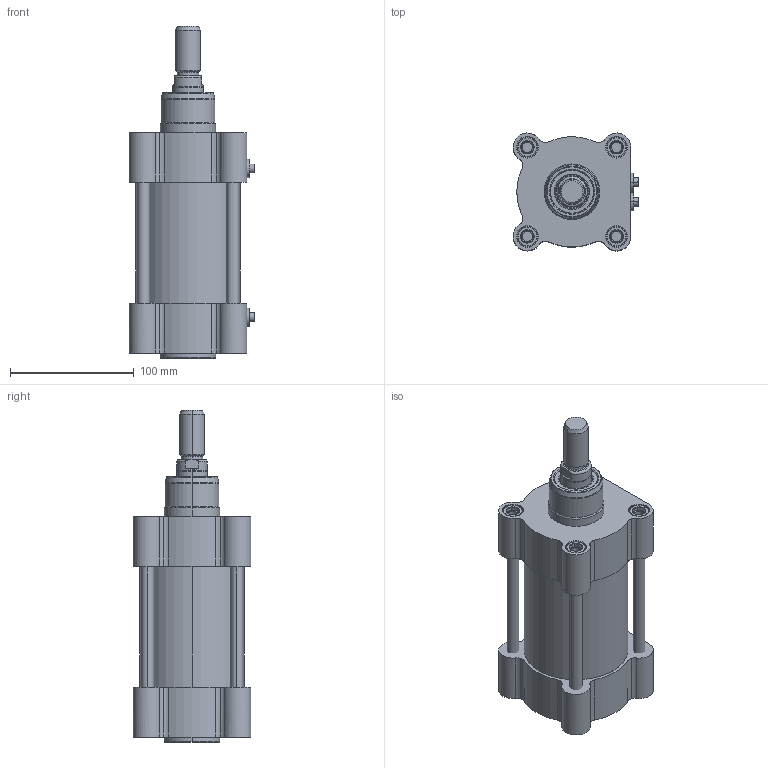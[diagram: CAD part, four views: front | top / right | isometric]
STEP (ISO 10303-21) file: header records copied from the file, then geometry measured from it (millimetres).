
FILE_DESCRIPTION (( 'STEP AP203' ), '1' );
FILE_NAME ('CTMI80-50.STEP', '2020-03-26T19:36:08', ( '' ), ( '' ), 'SwSTEP 2.0', 'SolidWorks 2019', '' );
FILE_SCHEMA (( 'CONFIG_CONTROL_DESIGN' ));
Length unit declared in the file: millimetre
Products named in the file (1): CTMI80-50
Bounding box: 101.5 x 95 x 268 mm (x, y, z)
Surface area: 197102.5 mm2 (no closed solid volume)
Topology: 0 solids, 26 shells, 731 faces, 1682 edges, 1038 vertices
Faces by surface type: cone 230, cylinder 204, plane 195, torus 86, bspline 16
Entity records: 28025 total; most frequent: CARTESIAN_POINT 12647, ORIENTED_EDGE 3308, DIRECTION 2906, EDGE_CURVE 1682, AXIS2_PLACEMENT_3D 1202, VERTEX_POINT 1038, EDGE_LOOP 804, FACE_OUTER_BOUND 731
